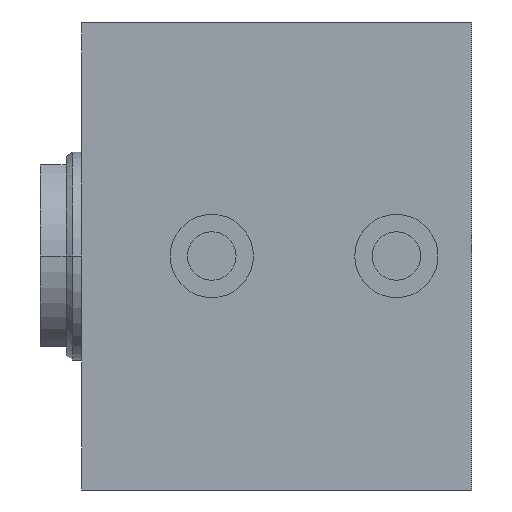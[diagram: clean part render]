
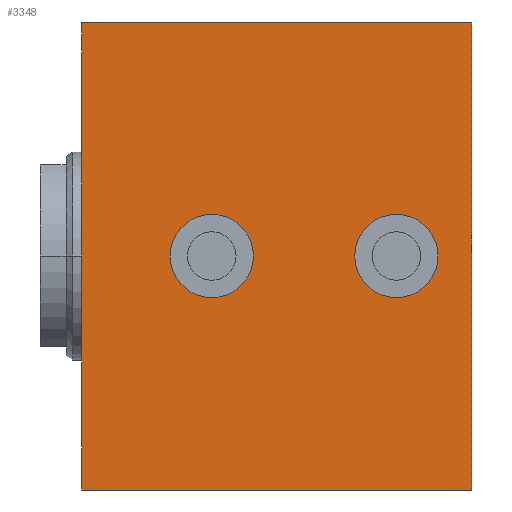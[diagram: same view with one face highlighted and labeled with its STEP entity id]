
A CAD part, left-side view. The second image highlights one B-rep face of the part: STEP entity #3348.
In plain terms, the highlighted planar face has unit normal (-1, 0, 0).
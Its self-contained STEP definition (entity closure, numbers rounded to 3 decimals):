
#52 = ORIENTED_EDGE ( 'NONE', *, *, #1226, .F. ) ;
#102 = CARTESIAN_POINT ( 'NONE',  ( -115., 100., -16. ) ) ;
#103 = VECTOR ( 'NONE', #424, 1000. ) ;
#112 = VECTOR ( 'NONE', #1303, 1000. ) ;
#158 = CARTESIAN_POINT ( 'NONE',  ( -115., 29., 16. ) ) ;
#230 = EDGE_LOOP ( 'NONE', ( #1100, #52 ) ) ;
#236 = CARTESIAN_POINT ( 'NONE',  ( -115., 110., -90. ) ) ;
#244 = CARTESIAN_POINT ( 'NONE',  ( -115., 100., 0. ) ) ;
#292 = CARTESIAN_POINT ( 'NONE',  ( -115., 110., 90. ) ) ;
#391 = VECTOR ( 'NONE', #1934, 1000. ) ;
#424 = DIRECTION ( 'NONE',  ( 0., -1., 0. ) ) ;
#517 = CARTESIAN_POINT ( 'NONE',  ( -115., 0., -90. ) ) ;
#534 = CARTESIAN_POINT ( 'NONE',  ( -115., 0., -90. ) ) ;
#555 = ORIENTED_EDGE ( 'NONE', *, *, #3287, .T. ) ;
#620 = DIRECTION ( 'NONE',  ( 0., 0., 1. ) ) ;
#652 = LINE ( 'NONE', #292, #103 ) ;
#674 = CIRCLE ( 'NONE', #1086, 16. ) ;
#685 = VERTEX_POINT ( 'NONE', #102 ) ;
#704 = ORIENTED_EDGE ( 'NONE', *, *, #990, .T. ) ;
#928 = LINE ( 'NONE', #1988, #391 ) ;
#980 = AXIS2_PLACEMENT_3D ( 'NONE', #1432, #2404, #2061 ) ;
#990 = EDGE_CURVE ( 'NONE', #1296, #1254, #928, .T. ) ;
#1053 = ORIENTED_EDGE ( 'NONE', *, *, #1845, .F. ) ;
#1086 = AXIS2_PLACEMENT_3D ( 'NONE', #2853, #1694, #620 ) ;
#1100 = ORIENTED_EDGE ( 'NONE', *, *, #2242, .F. ) ;
#1118 = CIRCLE ( 'NONE', #2379, 16. ) ;
#1172 = CARTESIAN_POINT ( 'NONE',  ( -115., 0., 90. ) ) ;
#1226 = EDGE_CURVE ( 'NONE', #2945, #1985, #2954, .T. ) ;
#1254 = VERTEX_POINT ( 'NONE', #517 ) ;
#1296 = VERTEX_POINT ( 'NONE', #2456 ) ;
#1303 = DIRECTION ( 'NONE',  ( 0., 0., 1. ) ) ;
#1324 = DIRECTION ( 'NONE',  ( 0., 0., 1. ) ) ;
#1389 = DIRECTION ( 'NONE',  ( 0., 0., 1. ) ) ;
#1432 = CARTESIAN_POINT ( 'NONE',  ( -115., 100., 0. ) ) ;
#1450 = EDGE_CURVE ( 'NONE', #2470, #685, #1118, .T. ) ;
#1535 = EDGE_CURVE ( 'NONE', #685, #2470, #2170, .T. ) ;
#1544 = VECTOR ( 'NONE', #1324, 1000. ) ;
#1681 = DIRECTION ( 'NONE',  ( 0., 0., -1. ) ) ;
#1694 = DIRECTION ( 'NONE',  ( -1., 0., 0. ) ) ;
#1709 = DIRECTION ( 'NONE',  ( 0., 0., 1. ) ) ;
#1741 = EDGE_LOOP ( 'NONE', ( #2504, #3091 ) ) ;
#1778 = LINE ( 'NONE', #534, #1544 ) ;
#1845 = EDGE_CURVE ( 'NONE', #2555, #2158, #652, .T. ) ;
#1934 = DIRECTION ( 'NONE',  ( 0., -1., 0. ) ) ;
#1985 = VERTEX_POINT ( 'NONE', #158 ) ;
#1988 = CARTESIAN_POINT ( 'NONE',  ( -115., 110., -90. ) ) ;
#2010 = CARTESIAN_POINT ( 'NONE',  ( -115., 29., -16. ) ) ;
#2061 = DIRECTION ( 'NONE',  ( 0., 0., 1. ) ) ;
#2126 = AXIS2_PLACEMENT_3D ( 'NONE', #236, #3617, #1681 ) ;
#2158 = VERTEX_POINT ( 'NONE', #1172 ) ;
#2170 = CIRCLE ( 'NONE', #980, 16. ) ;
#2242 = EDGE_CURVE ( 'NONE', #1985, #2945, #674, .T. ) ;
#2379 = AXIS2_PLACEMENT_3D ( 'NONE', #244, #2584, #1709 ) ;
#2404 = DIRECTION ( 'NONE',  ( -1., 0., 0. ) ) ;
#2456 = CARTESIAN_POINT ( 'NONE',  ( -115., 150., -90. ) ) ;
#2470 = VERTEX_POINT ( 'NONE', #3297 ) ;
#2472 = PLANE ( 'NONE',  #2126 ) ;
#2504 = ORIENTED_EDGE ( 'NONE', *, *, #1450, .F. ) ;
#2555 = VERTEX_POINT ( 'NONE', #3606 ) ;
#2578 = EDGE_LOOP ( 'NONE', ( #555, #1053, #3366, #704 ) ) ;
#2584 = DIRECTION ( 'NONE',  ( -1., 0., 0. ) ) ;
#2629 = FACE_BOUND ( 'NONE', #1741, .T. ) ;
#2694 = CARTESIAN_POINT ( 'NONE',  ( -115., 150., -90. ) ) ;
#2695 = DIRECTION ( 'NONE',  ( -1., 0., 0. ) ) ;
#2775 = CARTESIAN_POINT ( 'NONE',  ( -115., 29., 0. ) ) ;
#2853 = CARTESIAN_POINT ( 'NONE',  ( -115., 29., 0. ) ) ;
#2889 = EDGE_CURVE ( 'NONE', #1296, #2555, #3593, .T. ) ;
#2942 = FACE_OUTER_BOUND ( 'NONE', #2578, .T. ) ;
#2945 = VERTEX_POINT ( 'NONE', #2010 ) ;
#2954 = CIRCLE ( 'NONE', #3190, 16. ) ;
#2966 = FACE_BOUND ( 'NONE', #230, .T. ) ;
#3091 = ORIENTED_EDGE ( 'NONE', *, *, #1535, .F. ) ;
#3190 = AXIS2_PLACEMENT_3D ( 'NONE', #2775, #2695, #1389 ) ;
#3287 = EDGE_CURVE ( 'NONE', #1254, #2158, #1778, .T. ) ;
#3297 = CARTESIAN_POINT ( 'NONE',  ( -115., 100., 16. ) ) ;
#3348 = ADVANCED_FACE ( 'NONE', ( #2966, #2629, #2942 ), #2472, .F. ) ;
#3366 = ORIENTED_EDGE ( 'NONE', *, *, #2889, .F. ) ;
#3593 = LINE ( 'NONE', #2694, #112 ) ;
#3606 = CARTESIAN_POINT ( 'NONE',  ( -115., 150., 90. ) ) ;
#3617 = DIRECTION ( 'NONE',  ( 1., 0., 0. ) ) ;
